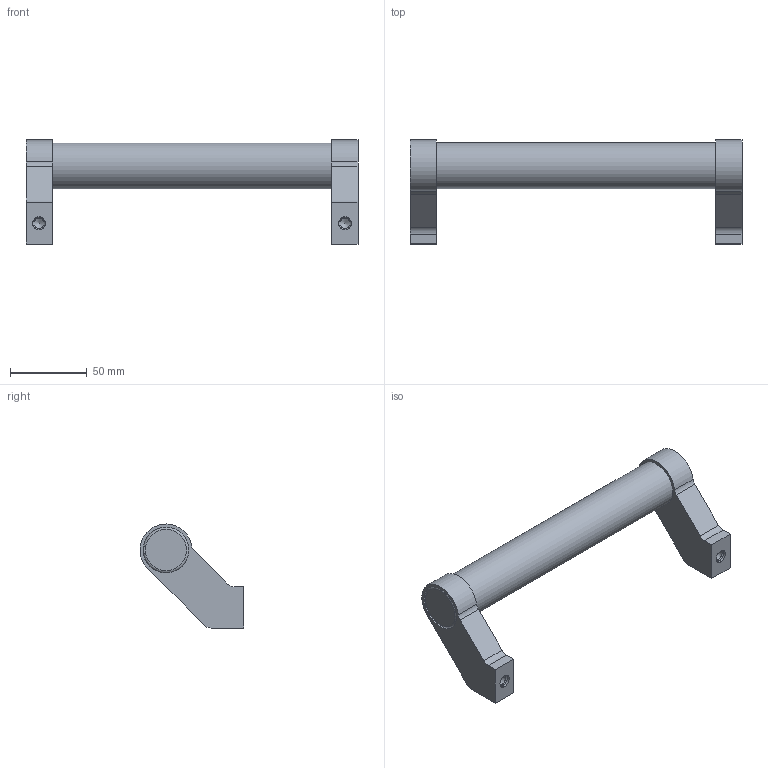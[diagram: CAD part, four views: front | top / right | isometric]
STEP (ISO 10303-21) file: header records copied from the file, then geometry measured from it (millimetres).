
FILE_DESCRIPTION( ( 'STEP AP203' ), '1' );
FILE_NAME( 'C:/Temp/Ganter_Step_05_03_2020/data/1_2/gn333/Tubular handle GN 333-30-200-A-ES.stp', '2020-03-05T10:16:20', ( 'License CC BY-ND 4.0' ), ( 'CADENAS' ), ' ', 'PARTsolutions', ' ' );
FILE_SCHEMA( ( 'CONFIG_CONTROL_DESIGN' ) );
Length unit declared in the file: millimetre
Products named in the file (1): _Tubular handle GN 333-30-200-A-ES
Bounding box: 217 x 67.96 x 67.99 mm (x, y, z)
Volume: 210919.7 mm3; surface area: 34188.5 mm2
Topology: 1 solids, 1 shells, 47 faces, 108 edges, 69 vertices
Faces by surface type: plane 26, cylinder 15, cone 4, torus 2
Full cylindrical faces by diameter (mm): 6.647 x2, 8.5 x2, 30 x3
Entity records: 1326 total; most frequent: CARTESIAN_POINT 270, DIRECTION 216, ORIENTED_EDGE 184, EDGE_CURVE 92, AXIS2_PLACEMENT_3D 84, VERTEX_POINT 66, EDGE_LOOP 64, FACE_OUTER_BOUND 54
